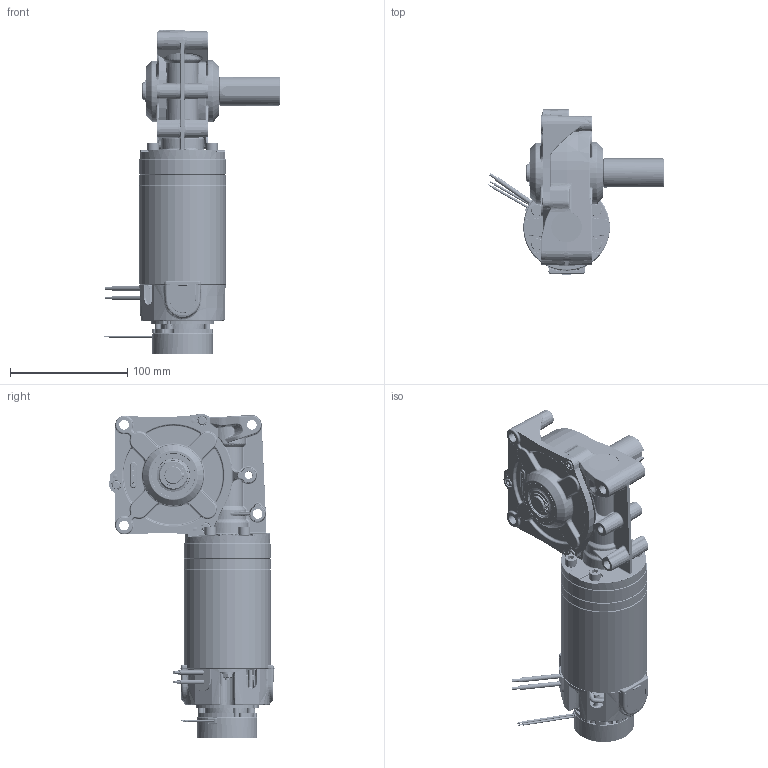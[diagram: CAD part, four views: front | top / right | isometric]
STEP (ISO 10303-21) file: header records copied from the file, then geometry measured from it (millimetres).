
FILE_DESCRIPTION (( 'STEP AP214' ), '1' );
FILE_NAME ('BRx70-40-GB12 - Brake - Shaft (render model).STEP', '2024-01-16T08:40:44', ( '' ), ( '' ), 'SwSTEP 2.0', 'SolidWorks 2023', '' );
FILE_SCHEMA (( 'AUTOMOTIVE_DESIGN' ));
Length unit declared in the file: millimetre
Products named in the file (1): BRx70-40-GB12 - Brake - Shaft (render model)
Bounding box: 150.84 x 141.47 x 276.79 mm (x, y, z)
Surface area: 281354.6 mm2 (no closed solid volume)
Topology: 0 solids, 61 shells, 5117 faces, 12526 edges, 7526 vertices
Faces by surface type: cylinder 1769, plane 1127, bspline 1041, torus 567, cone 497, sphere 116
Entity records: 242131 total; most frequent: CARTESIAN_POINT 72660, ORIENTED_EDGE 24666, DIRECTION 22616, EDGE_CURVE 12335, AXIS2_PLACEMENT_3D 9189, VERTEX_POINT 7522, EDGE_LOOP 5450, UNCERTAINTY_MEASURE_WITH_UNIT 5178
